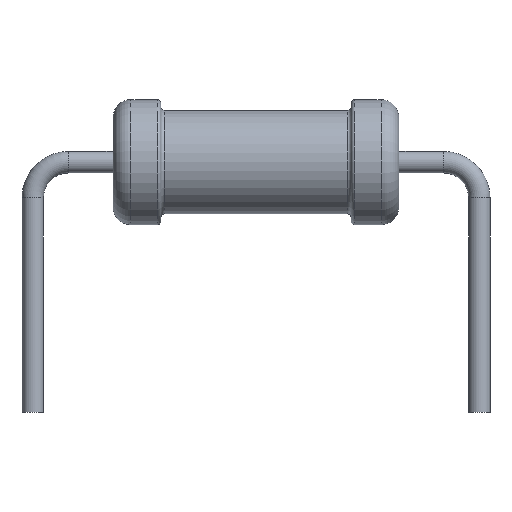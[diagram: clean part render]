
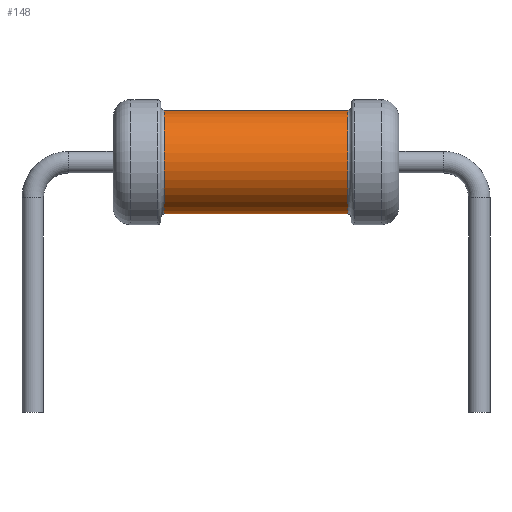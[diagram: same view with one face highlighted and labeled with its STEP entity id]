
A CAD part, top view. The second image highlights one B-rep face of the part: STEP entity #148.
In plain terms, the highlighted cylindrical face has radius 1.447 mm (diameter 2.893 mm), a full revolution.
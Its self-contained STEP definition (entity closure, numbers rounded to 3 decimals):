
#148=ADVANCED_FACE('',(#335,#337),#339,.T.);
#335=FACE_OUTER_BOUND('',#336,.T.);
#336=EDGE_LOOP('',(#451));
#337=FACE_OUTER_BOUND('',#338,.T.);
#338=EDGE_LOOP('',(#452));
#339=CYLINDRICAL_SURFACE('',#340,1.447);
#340=AXIS2_PLACEMENT_3D('',#341,#342,#343);
#341=CARTESIAN_POINT('',(2.565,0.,0.));
#342=DIRECTION('',(-1.,0.,0.));
#343=DIRECTION('',(0.,0.,1.));
#451=ORIENTED_EDGE('',*,*,#481,.T.);
#452=ORIENTED_EDGE('',*,*,#482,.F.);
#481=EDGE_CURVE('',#510,#510,#511,.T.);
#482=EDGE_CURVE('',#512,#512,#513,.T.);
#510=VERTEX_POINT('',#577);
#511=CIRCLE('',#578,1.447);
#512=VERTEX_POINT('',#582);
#513=CIRCLE('',#583,1.447);
#577=CARTESIAN_POINT('',(2.565,0.,1.447));
#578=AXIS2_PLACEMENT_3D('',#579,#580,#581);
#579=CARTESIAN_POINT('',(2.565,0.,0.));
#580=DIRECTION('',(-1.,0.,0.));
#581=DIRECTION('',(0.,0.,1.));
#582=CARTESIAN_POINT('',(-2.565,0.,1.447));
#583=AXIS2_PLACEMENT_3D('',#584,#585,#586);
#584=CARTESIAN_POINT('',(-2.565,0.,0.));
#585=DIRECTION('',(-1.,0.,0.));
#586=DIRECTION('',(0.,0.,1.));
